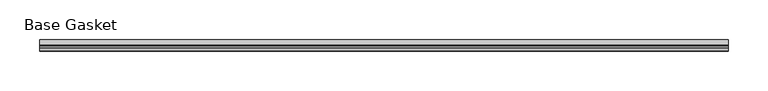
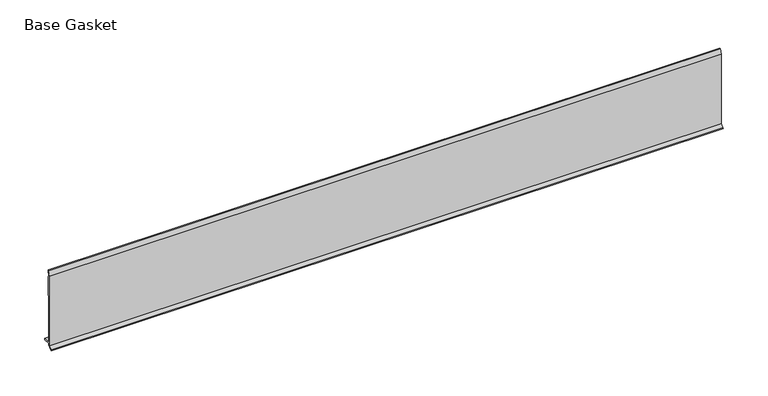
"""IFC4 building model written with IfcOpenShell, lengths in millimetres: furniture geometry, Gasket-Teknion-FHGB-AI_Healthcare-R2021 : Base Gasket."""

from ifc_helpers import new_model, si_unit, frame, origin, place, context, project, spatial, polyline, outline, extrude, source, transform, mapped, element, save


def base_gasket_c052306d(model_context):
    return source(origin(), model_context, "Body", "SweptSolid", [
        extrude(outline(polyline([(-3.7283812, 98.4568417), (-1.1891543, 104.587663), (-0.6755308, 105.2002997), (-0.6755308, 104.4162708), (-2.2043812, 98.4568417), (-2.2043812, 96.8693477), (-1.4106313, 96.8693477), (-1.4106313, 71.4693447), (-2.2043812, 71.4693447), (-2.2043812, 7.9398773), (6.2405171, 7.9398773), (6.2405171, 6.3818476), (-2.1334222, 6.3818476), (-2.2043812, 4.3498477), (-6.8281054, 0.3520979), (-7.8482342, 0.0), (-7.4222115, 0.6560174), (-3.7283812, 4.3498477), (-3.7283812, 98.4568417)])), frame((-1527.8982117, 0.0, 0.0), z_axis=(1.0, 0.0, 0.0), x_axis=(0.0, 1.0, 0.0)), (0.0, 0.0, 1.0), 863.6),
    ])


if __name__ == "__main__":
    model = new_model("IFC4")
    model_context = context("Model", 3, world=origin())
    ifc_project = project(units=[si_unit("LENGTHUNIT", "METRE", prefix="MILLI")], contexts=[model_context])
    site = spatial("IfcSite", under=ifc_project)
    building = spatial("IfcBuilding", under=site)
    placement = place(None, origin())
    base_gasket_shape = base_gasket_c052306d(model_context)
    element("IfcFurniture", 1, ObjectType="Gasket-Teknion-FHGB-AI_Healthcare-R2021 : Base Gasket", at=placement, inside=building, context=model_context, shape_type="MappedRepresentation", body=[
        mapped(base_gasket_shape, transform((0.0, 0.0, 0.0), x_axis=(1.0, 0.0, 0.0), y_axis=(0.0, 1.0, 0.0), z_axis=(0.0, 0.0, 1.0))),
    ])
    save(model, "model.ifc")
